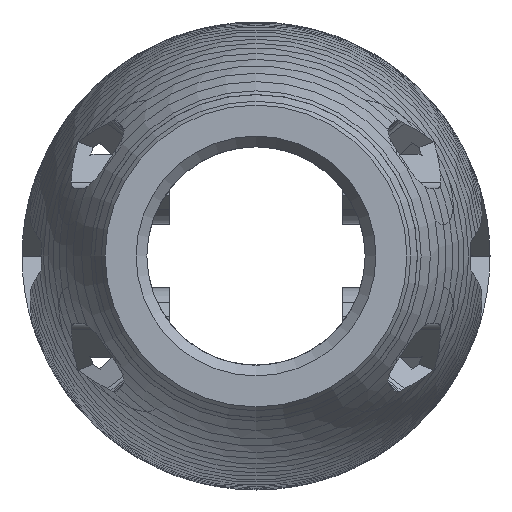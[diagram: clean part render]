
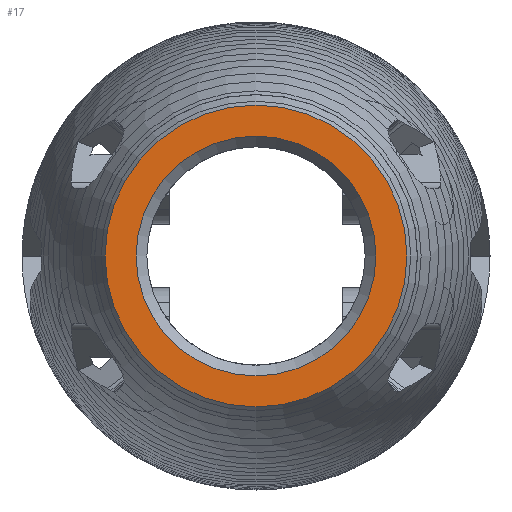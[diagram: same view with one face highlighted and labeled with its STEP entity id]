
A CAD part, left-side view. The second image highlights one B-rep face of the part: STEP entity #17.
In plain terms, the highlighted planar face has unit normal (-1, 0, 0).
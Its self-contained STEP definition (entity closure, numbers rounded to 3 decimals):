
#17 = ADVANCED_FACE('',(#18,#54),#31,.F.);
#18 = FACE_BOUND('',#19,.F.);
#19 = EDGE_LOOP('',(#20));
#20 = ORIENTED_EDGE('',*,*,#21,.F.);
#21 = EDGE_CURVE('',#22,#22,#24,.T.);
#22 = VERTEX_POINT('',#23);
#23 = CARTESIAN_POINT('',(9.9,0.,10.25));
#24 = SURFACE_CURVE('',#25,(#30,#42),.PCURVE_S1.);
#25 = CIRCLE('',#26,10.25);
#26 = AXIS2_PLACEMENT_3D('',#27,#28,#29);
#27 = CARTESIAN_POINT('',(9.9,0.,0.));
#28 = DIRECTION('',(1.,0.,0.));
#29 = DIRECTION('',(-0.,0.,1.));
#30 = PCURVE('',#31,#36);
#31 = PLANE('',#32);
#32 = AXIS2_PLACEMENT_3D('',#33,#34,#35);
#33 = CARTESIAN_POINT('',(9.9,-30.,-30.));
#34 = DIRECTION('',(1.,0.,-0.));
#35 = DIRECTION('',(0.,0.,1.));
#36 = DEFINITIONAL_REPRESENTATION('',(#37),#41);
#37 = CIRCLE('',#38,10.25);
#38 = AXIS2_PLACEMENT_2D('',#39,#40);
#39 = CARTESIAN_POINT('',(30.,-30.));
#40 = DIRECTION('',(1.,0.));
#41 = ( GEOMETRIC_REPRESENTATION_CONTEXT(2) 
PARAMETRIC_REPRESENTATION_CONTEXT() REPRESENTATION_CONTEXT('2D SPACE',''
  ) );
#42 = PCURVE('',#43,#48);
#43 = CYLINDRICAL_SURFACE('',#44,10.25);
#44 = AXIS2_PLACEMENT_3D('',#45,#46,#47);
#45 = CARTESIAN_POINT('',(8.9,0.,0.));
#46 = DIRECTION('',(1.,0.,0.));
#47 = DIRECTION('',(-0.,0.,1.));
#48 = DEFINITIONAL_REPRESENTATION('',(#49),#53);
#49 = LINE('',#50,#51);
#50 = CARTESIAN_POINT('',(0.,1.));
#51 = VECTOR('',#52,1.);
#52 = DIRECTION('',(1.,0.));
#53 = ( GEOMETRIC_REPRESENTATION_CONTEXT(2) 
PARAMETRIC_REPRESENTATION_CONTEXT() REPRESENTATION_CONTEXT('2D SPACE',''
  ) );
#54 = FACE_BOUND('',#55,.F.);
#55 = EDGE_LOOP('',(#56));
#56 = ORIENTED_EDGE('',*,*,#57,.F.);
#57 = EDGE_CURVE('',#58,#58,#60,.T.);
#58 = VERTEX_POINT('',#59);
#59 = CARTESIAN_POINT('',(9.9,12.898,0.));
#60 = SURFACE_CURVE('',#61,(#66,#77),.PCURVE_S1.);
#61 = CIRCLE('',#62,12.898);
#62 = AXIS2_PLACEMENT_3D('',#63,#64,#65);
#63 = CARTESIAN_POINT('',(9.9,0.,0.));
#64 = DIRECTION('',(-1.,0.,0.));
#65 = DIRECTION('',(0.,1.,0.));
#66 = PCURVE('',#31,#67);
#67 = DEFINITIONAL_REPRESENTATION('',(#68),#76);
#68 = ( BOUNDED_CURVE() B_SPLINE_CURVE(2,(#69,#70,#71,#72,#73,#74,#75),
.UNSPECIFIED.,.T.,.F.) B_SPLINE_CURVE_WITH_KNOTS((1,2,2,2,2,1),(
    -2.094,0.,2.094,4.189,6.283,
8.378),.UNSPECIFIED.) CURVE() GEOMETRIC_REPRESENTATION_ITEM() 
RATIONAL_B_SPLINE_CURVE((1.,0.5,1.,0.5,1.,0.5,1.)) REPRESENTATION_ITEM(
  '') );
#69 = CARTESIAN_POINT('',(30.,-42.898));
#70 = CARTESIAN_POINT('',(7.661,-42.898));
#71 = CARTESIAN_POINT('',(18.83,-23.551));
#72 = CARTESIAN_POINT('',(30.,-4.205));
#73 = CARTESIAN_POINT('',(41.17,-23.551));
#74 = CARTESIAN_POINT('',(52.339,-42.898));
#75 = CARTESIAN_POINT('',(30.,-42.898));
#76 = ( GEOMETRIC_REPRESENTATION_CONTEXT(2) 
PARAMETRIC_REPRESENTATION_CONTEXT() REPRESENTATION_CONTEXT('2D SPACE',''
  ) );
#77 = PCURVE('',#78,#83);
#78 = CONICAL_SURFACE('',#79,12.898,0.504);
#79 = AXIS2_PLACEMENT_3D('',#80,#81,#82);
#80 = CARTESIAN_POINT('',(9.9,0.,0.));
#81 = DIRECTION('',(1.,0.,0.));
#82 = DIRECTION('',(-0.,1.,0.));
#83 = DEFINITIONAL_REPRESENTATION('',(#84),#88);
#84 = LINE('',#85,#86);
#85 = CARTESIAN_POINT('',(6.283,0.));
#86 = VECTOR('',#87,1.);
#87 = DIRECTION('',(-1.,-0.));
#88 = ( GEOMETRIC_REPRESENTATION_CONTEXT(2) 
PARAMETRIC_REPRESENTATION_CONTEXT() REPRESENTATION_CONTEXT('2D SPACE',''
  ) );
